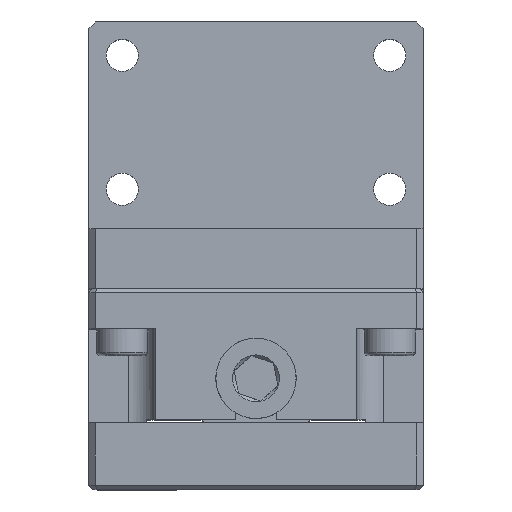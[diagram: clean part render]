
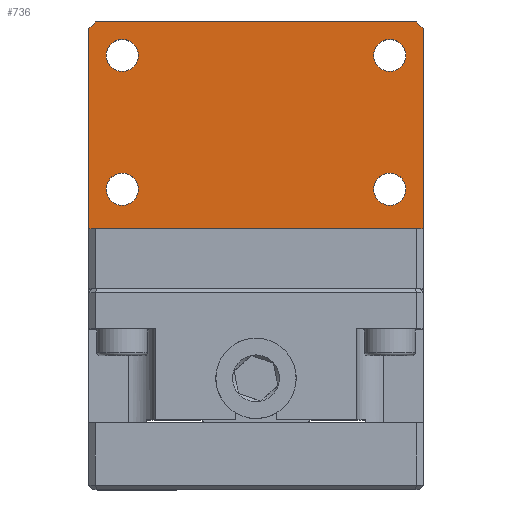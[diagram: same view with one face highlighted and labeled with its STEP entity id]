
A CAD part, top view. The second image highlights one B-rep face of the part: STEP entity #736.
In plain terms, the highlighted planar face has unit normal (0, 0, 1).
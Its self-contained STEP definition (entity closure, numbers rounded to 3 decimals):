
#7 = CARTESIAN_POINT ( 'NONE',  ( 0., 25.5, -9.564 ) ) ;
#22 = VERTEX_POINT ( 'NONE', #3652 ) ;
#35 = VECTOR ( 'NONE', #3277, 1000. ) ;
#94 = AXIS2_PLACEMENT_3D ( 'NONE', #968, #907, #2967 ) ;
#222 = EDGE_CURVE ( 'NONE', #1995, #6678, #5808, .T. ) ;
#277 = ORIENTED_EDGE ( 'NONE', *, *, #3377, .F. ) ;
#475 = DIRECTION ( 'NONE',  ( 0., 0., 1. ) ) ;
#479 = CARTESIAN_POINT ( 'NONE',  ( 25., 40.5, -9.564 ) ) ;
#544 = EDGE_LOOP ( 'NONE', ( #2224, #6246, #3901, #2145, #3081, #1910 ) ) ;
#593 = CARTESIAN_POINT ( 'NONE',  ( 0.5, 41., -9.564 ) ) ;
#619 = DIRECTION ( 'NONE',  ( 1., 0., 0. ) ) ;
#658 = FACE_BOUND ( 'NONE', #2572, .T. ) ;
#703 = VERTEX_POINT ( 'NONE', #593 ) ;
#736 = ADVANCED_FACE ( 'NONE', ( #3224, #5301, #658, #1027, #4619 ), #1474, .T. ) ;
#907 = DIRECTION ( 'NONE',  ( 0., 0., 1. ) ) ;
#925 = VERTEX_POINT ( 'NONE', #2984 ) ;
#968 = CARTESIAN_POINT ( 'NONE',  ( 2.5, 38.5, -9.564 ) ) ;
#1019 = CARTESIAN_POINT ( 'NONE',  ( 25., 25.5, -9.564 ) ) ;
#1027 = FACE_BOUND ( 'NONE', #6008, .T. ) ;
#1165 = DIRECTION ( 'NONE',  ( 1., 0., 0. ) ) ;
#1203 = CARTESIAN_POINT ( 'NONE',  ( 22.5, 38.5, -9.564 ) ) ;
#1238 = EDGE_CURVE ( 'NONE', #703, #22, #5679, .T. ) ;
#1474 = PLANE ( 'NONE',  #6520 ) ;
#1516 = CIRCLE ( 'NONE', #4327, 1.2 ) ;
#1556 = EDGE_CURVE ( 'NONE', #2905, #22, #2612, .T. ) ;
#1573 = CARTESIAN_POINT ( 'NONE',  ( 24.5, 41., -9.564 ) ) ;
#1640 = CARTESIAN_POINT ( 'NONE',  ( 2.5, 28.5, -9.564 ) ) ;
#1704 = DIRECTION ( 'NONE',  ( 0., 0., 1. ) ) ;
#1795 = CARTESIAN_POINT ( 'NONE',  ( 25., 41., -9.564 ) ) ;
#1802 = VERTEX_POINT ( 'NONE', #3529 ) ;
#1910 = ORIENTED_EDGE ( 'NONE', *, *, #222, .T. ) ;
#1980 = VECTOR ( 'NONE', #5775, 1000. ) ;
#1995 = VERTEX_POINT ( 'NONE', #479 ) ;
#2071 = CARTESIAN_POINT ( 'NONE',  ( 0., 21., -9.564 ) ) ;
#2145 = ORIENTED_EDGE ( 'NONE', *, *, #3167, .F. ) ;
#2180 = CARTESIAN_POINT ( 'NONE',  ( 34.75, 30.75, -9.564 ) ) ;
#2224 = ORIENTED_EDGE ( 'NONE', *, *, #5498, .T. ) ;
#2242 = LINE ( 'NONE', #3267, #6488 ) ;
#2360 = DIRECTION ( 'NONE',  ( 0., 0., 1. ) ) ;
#2428 = CIRCLE ( 'NONE', #6545, 1.2 ) ;
#2508 = DIRECTION ( 'NONE',  ( 1., 0., 0. ) ) ;
#2572 = EDGE_LOOP ( 'NONE', ( #6020 ) ) ;
#2612 = LINE ( 'NONE', #2071, #2682 ) ;
#2682 = VECTOR ( 'NONE', #5731, 1000. ) ;
#2814 = VECTOR ( 'NONE', #6068, 1000. ) ;
#2905 = VERTEX_POINT ( 'NONE', #7 ) ;
#2925 = CARTESIAN_POINT ( 'NONE',  ( 25., 21., -9.564 ) ) ;
#2967 = DIRECTION ( 'NONE',  ( 1., 0., 0. ) ) ;
#2984 = CARTESIAN_POINT ( 'NONE',  ( 23.7, 28.5, -9.564 ) ) ;
#3029 = CIRCLE ( 'NONE', #94, 1.2 ) ;
#3081 = ORIENTED_EDGE ( 'NONE', *, *, #3618, .T. ) ;
#3167 = EDGE_CURVE ( 'NONE', #5333, #2905, #2242, .T. ) ;
#3224 = FACE_BOUND ( 'NONE', #3531, .T. ) ;
#3267 = CARTESIAN_POINT ( 'NONE',  ( 25., 25.5, -9.564 ) ) ;
#3277 = DIRECTION ( 'NONE',  ( -1., 0., 0. ) ) ;
#3319 = EDGE_CURVE ( 'NONE', #4301, #4301, #3029, .T. ) ;
#3326 = ORIENTED_EDGE ( 'NONE', *, *, #3381, .F. ) ;
#3377 = EDGE_CURVE ( 'NONE', #1802, #1802, #3677, .T. ) ;
#3381 = EDGE_CURVE ( 'NONE', #6502, #6502, #1516, .T. ) ;
#3450 = DIRECTION ( 'NONE',  ( 1., 0., 0. ) ) ;
#3529 = CARTESIAN_POINT ( 'NONE',  ( 23.7, 38.5, -9.564 ) ) ;
#3531 = EDGE_LOOP ( 'NONE', ( #4071 ) ) ;
#3618 = EDGE_CURVE ( 'NONE', #5333, #1995, #4586, .T. ) ;
#3652 = CARTESIAN_POINT ( 'NONE',  ( 0., 40.5, -9.564 ) ) ;
#3662 = CARTESIAN_POINT ( 'NONE',  ( 25., 21., -9.564 ) ) ;
#3677 = CIRCLE ( 'NONE', #4757, 1.2 ) ;
#3863 = EDGE_LOOP ( 'NONE', ( #277 ) ) ;
#3901 = ORIENTED_EDGE ( 'NONE', *, *, #1556, .F. ) ;
#4071 = ORIENTED_EDGE ( 'NONE', *, *, #3319, .F. ) ;
#4183 = DIRECTION ( 'NONE',  ( -1., 0., 0. ) ) ;
#4257 = DIRECTION ( 'NONE',  ( -0.707, 0.707, 0. ) ) ;
#4301 = VERTEX_POINT ( 'NONE', #4375 ) ;
#4327 = AXIS2_PLACEMENT_3D ( 'NONE', #1640, #5730, #1165 ) ;
#4375 = CARTESIAN_POINT ( 'NONE',  ( 3.7, 38.5, -9.564 ) ) ;
#4586 = LINE ( 'NONE', #2925, #2814 ) ;
#4619 = FACE_OUTER_BOUND ( 'NONE', #544, .T. ) ;
#4757 = AXIS2_PLACEMENT_3D ( 'NONE', #1203, #1704, #619 ) ;
#4985 = CARTESIAN_POINT ( 'NONE',  ( 3.7, 28.5, -9.564 ) ) ;
#5301 = FACE_BOUND ( 'NONE', #3863, .T. ) ;
#5333 = VERTEX_POINT ( 'NONE', #1019 ) ;
#5486 = CARTESIAN_POINT ( 'NONE',  ( 22.5, 28.5, -9.564 ) ) ;
#5498 = EDGE_CURVE ( 'NONE', #6678, #703, #5949, .T. ) ;
#5609 = EDGE_CURVE ( 'NONE', #925, #925, #2428, .T. ) ;
#5679 = LINE ( 'NONE', #5806, #1980 ) ;
#5730 = DIRECTION ( 'NONE',  ( 0., 0., 1. ) ) ;
#5731 = DIRECTION ( 'NONE',  ( 0., 1., 0. ) ) ;
#5775 = DIRECTION ( 'NONE',  ( -0.707, -0.707, 0. ) ) ;
#5806 = CARTESIAN_POINT ( 'NONE',  ( 2.75, 43.25, -9.564 ) ) ;
#5808 = LINE ( 'NONE', #2180, #6415 ) ;
#5949 = LINE ( 'NONE', #1795, #35 ) ;
#6008 = EDGE_LOOP ( 'NONE', ( #3326 ) ) ;
#6020 = ORIENTED_EDGE ( 'NONE', *, *, #5609, .F. ) ;
#6068 = DIRECTION ( 'NONE',  ( 0., 1., 0. ) ) ;
#6246 = ORIENTED_EDGE ( 'NONE', *, *, #1238, .T. ) ;
#6415 = VECTOR ( 'NONE', #4257, 1000. ) ;
#6488 = VECTOR ( 'NONE', #4183, 1000. ) ;
#6502 = VERTEX_POINT ( 'NONE', #4985 ) ;
#6520 = AXIS2_PLACEMENT_3D ( 'NONE', #3662, #475, #2508 ) ;
#6545 = AXIS2_PLACEMENT_3D ( 'NONE', #5486, #2360, #3450 ) ;
#6678 = VERTEX_POINT ( 'NONE', #1573 ) ;
